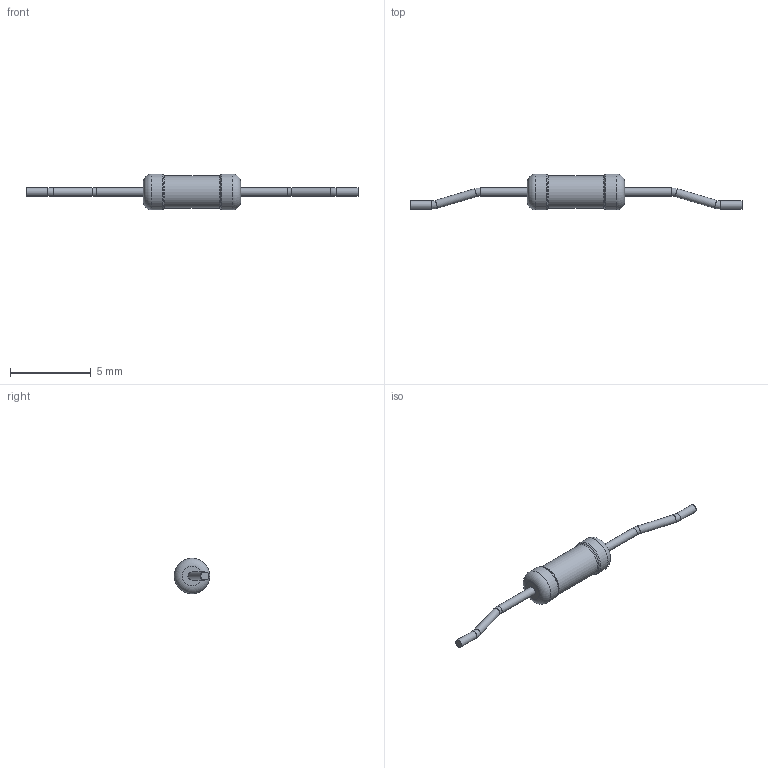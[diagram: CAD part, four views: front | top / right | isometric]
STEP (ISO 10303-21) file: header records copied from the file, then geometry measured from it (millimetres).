
FILE_DESCRIPTION(('STEP AP203'), '1');
FILE_NAME('ﾑ2-29ﾂ-0,125ﾀﾈ(3)', '', ('UNSPECIFIED'), ('UNSPECIFIED'), 'ASCON STEP Converter 1.6', 'ASCON Math Kernel', '');
FILE_SCHEMA(('CONFIG_CONTROL_DESIGN'));
Length unit declared in the file: millimetre
Bounding box: 20.5 x 2.2 x 2.2 mm (x, y, z)
Volume: 22.7 mm3; surface area: 67.3 mm2
Topology: 1 solids, 1 shells, 23 faces, 41 edges, 22 vertices
Faces by surface type: torus 10, cylinder 9, plane 4
Full cylindrical faces by diameter (mm): 0.5 x6, 2 x1, 2.2 x2
Entity records: 682 total; most frequent: DIRECTION 92, CARTESIAN_POINT 68, AXIS2_PLACEMENT_3D 46, EDGE_LOOP 44, ORIENTED_EDGE 44, FACE_OUTER_BOUND 38, COLOUR_RGB 24, FILL_AREA_STYLE_COLOUR 24
